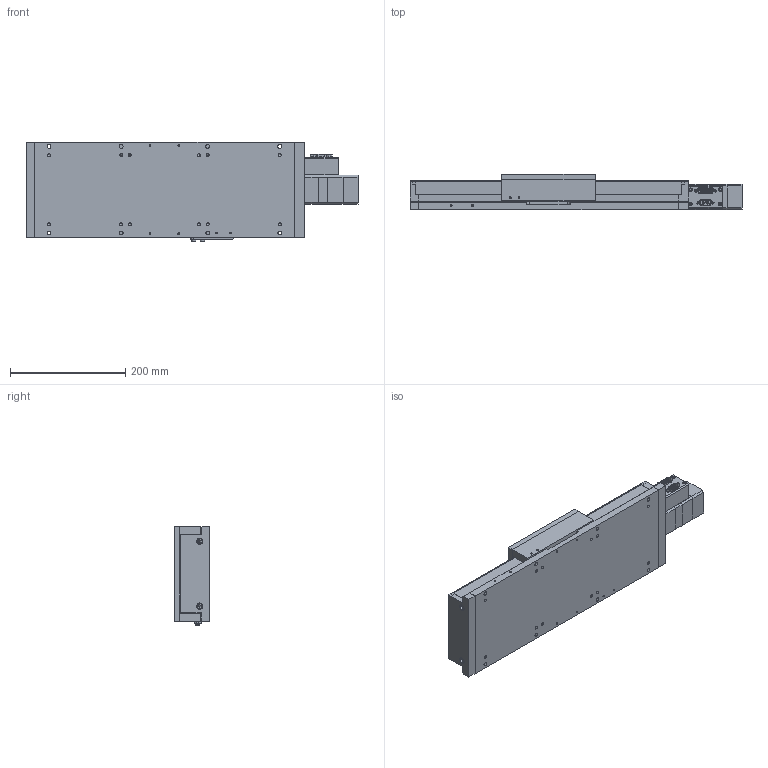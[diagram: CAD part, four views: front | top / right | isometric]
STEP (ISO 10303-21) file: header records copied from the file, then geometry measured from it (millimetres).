
FILE_DESCRIPTION (( 'STEP AP214' ), '1' );
FILE_NAME ('LM3-250-BS-A-H-S-G-EXPORT.STEP', '2024-05-07T14:57:57', ( 'lab' ), ( '' ), 'SwSTEP 2.0', 'SolidWorks 2018', '' );
FILE_SCHEMA (( 'AUTOMOTIVE_DESIGN' ));
Length unit declared in the file: millimetre
Products named in the file (17): 1000009; 1000015; 1000004; 1000011; 1000008; 1000014_91290A150; 1000010; 1000003_91290A148; 1000005; LM3-250-BS-A-H-S-G-EXPORT; 1000006; 1000007; 1000012_250; 1000002; 1000013; 1000019; 1000001
Assembly tree (28 placements, depth 3):
  LM3-250-BS-A-H-S-G-EXPORT
    1000019
      1000004
      1000005
      1000006
      1000007
      1000008
      1000009  x4
      1000010
      1000011
      1000012_250
      1000013
      1000014_91290A150  x8
      1000015
      1000003_91290A148  x2
      1000001  x2
      1000002
Bounding box: 575.6 x 62 x 173 mm (x, y, z)
Volume: 4183719.9 mm3; surface area: 423230.8 mm2
Topology: 79 solids, 79 shells, 1738 faces, 3974 edges, 2446 vertices
Faces by surface type: plane 903, cylinder 465, cone 200, bspline 170
Entity records: 53027 total; most frequent: CARTESIAN_POINT 13138, DIRECTION 6690, ORIENTED_EDGE 6536, EDGE_CURVE 3268, AXIS2_PLACEMENT_3D 2363, VERTEX_POINT 2083, LINE 1964, VECTOR 1964
